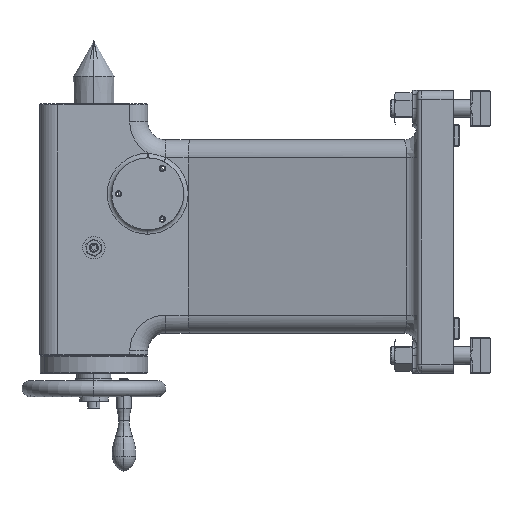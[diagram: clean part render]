
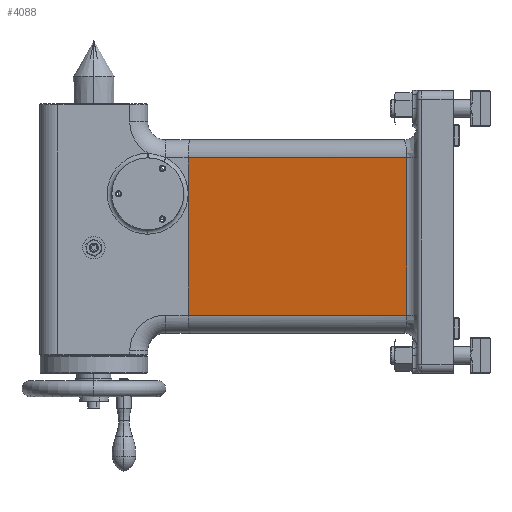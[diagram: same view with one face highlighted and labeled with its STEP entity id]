
A CAD part, left-side view. The second image highlights one B-rep face of the part: STEP entity #4088.
In plain terms, the highlighted planar face has unit normal (-0.976, 0.22, 0).
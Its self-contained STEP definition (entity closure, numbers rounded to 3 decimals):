
#377 = CARTESIAN_POINT ( 'NONE',  ( -117.362, -348.3, -195. ) ) ;
#1633 = VECTOR ( 'NONE', #6618, 1000. ) ;
#1644 = CARTESIAN_POINT ( 'NONE',  ( -62.5, -105., -20. ) ) ;
#1781 = VECTOR ( 'NONE', #3737, 1000. ) ;
#2039 = EDGE_CURVE ( 'NONE', #11487, #7511, #21559, .T. ) ;
#2714 = ORIENTED_EDGE ( 'NONE', *, *, #12114, .T. ) ;
#3091 = ORIENTED_EDGE ( 'NONE', *, *, #2039, .T. ) ;
#3737 = DIRECTION ( 'NONE',  ( 0., 0., 1. ) ) ;
#4088 = ADVANCED_FACE ( 'NONE', ( #10738 ), #9086, .T. ) ;
#5094 = ORIENTED_EDGE ( 'NONE', *, *, #8202, .F. ) ;
#6092 = LINE ( 'NONE', #22237, #19922 ) ;
#6618 = DIRECTION ( 'NONE',  ( 0., 0., 1. ) ) ;
#7194 = DIRECTION ( 'NONE',  ( -0.22, -0.976, 0. ) ) ;
#7511 = VERTEX_POINT ( 'NONE', #17405 ) ;
#8116 = DIRECTION ( 'NONE',  ( 0., 0., 1. ) ) ;
#8202 = EDGE_CURVE ( 'NONE', #9986, #7511, #14989, .T. ) ;
#8258 = CARTESIAN_POINT ( 'NONE',  ( -117.362, -348.3, -20. ) ) ;
#8620 = VERTEX_POINT ( 'NONE', #20270 ) ;
#8975 = CARTESIAN_POINT ( 'NONE',  ( -62.5, -105., -215. ) ) ;
#9086 = PLANE ( 'NONE',  #13140 ) ;
#9986 = VERTEX_POINT ( 'NONE', #22995 ) ;
#10738 = FACE_OUTER_BOUND ( 'NONE', #13105, .T. ) ;
#11487 = VERTEX_POINT ( 'NONE', #8258 ) ;
#11688 = DIRECTION ( 'NONE',  ( -0.22, -0.976, 0. ) ) ;
#12114 = EDGE_CURVE ( 'NONE', #8620, #17138, #16979, .T. ) ;
#12469 = VECTOR ( 'NONE', #11688, 1000. ) ;
#12589 = LINE ( 'NONE', #19763, #1781 ) ;
#12621 = DIRECTION ( 'NONE',  ( 0.22, 0.976, 0. ) ) ;
#13105 = EDGE_LOOP ( 'NONE', ( #2714, #17571, #3091, #5094, #18855 ) ) ;
#13140 = AXIS2_PLACEMENT_3D ( 'NONE', #8975, #16152, #7194 ) ;
#14543 = EDGE_CURVE ( 'NONE', #17138, #11487, #12589, .T. ) ;
#14989 = LINE ( 'NONE', #22181, #1633 ) ;
#16152 = DIRECTION ( 'NONE',  ( -0.976, 0.22, 0. ) ) ;
#16473 = EDGE_CURVE ( 'NONE', #8620, #9986, #6092, .T. ) ;
#16979 = LINE ( 'NONE', #20634, #12469 ) ;
#17138 = VERTEX_POINT ( 'NONE', #377 ) ;
#17405 = CARTESIAN_POINT ( 'NONE',  ( -62.5, -105., -20. ) ) ;
#17571 = ORIENTED_EDGE ( 'NONE', *, *, #14543, .T. ) ;
#18075 = VECTOR ( 'NONE', #12621, 1000. ) ;
#18855 = ORIENTED_EDGE ( 'NONE', *, *, #16473, .F. ) ;
#19763 = CARTESIAN_POINT ( 'NONE',  ( -117.362, -348.3, -20. ) ) ;
#19922 = VECTOR ( 'NONE', #8116, 1000. ) ;
#20270 = CARTESIAN_POINT ( 'NONE',  ( -62.5, -105., -195. ) ) ;
#20634 = CARTESIAN_POINT ( 'NONE',  ( -120., -360., -195. ) ) ;
#21559 = LINE ( 'NONE', #1644, #18075 ) ;
#22181 = CARTESIAN_POINT ( 'NONE',  ( -62.5, -105., -215. ) ) ;
#22237 = CARTESIAN_POINT ( 'NONE',  ( -62.5, -105., -215. ) ) ;
#22995 = CARTESIAN_POINT ( 'NONE',  ( -62.5, -105., -60. ) ) ;
